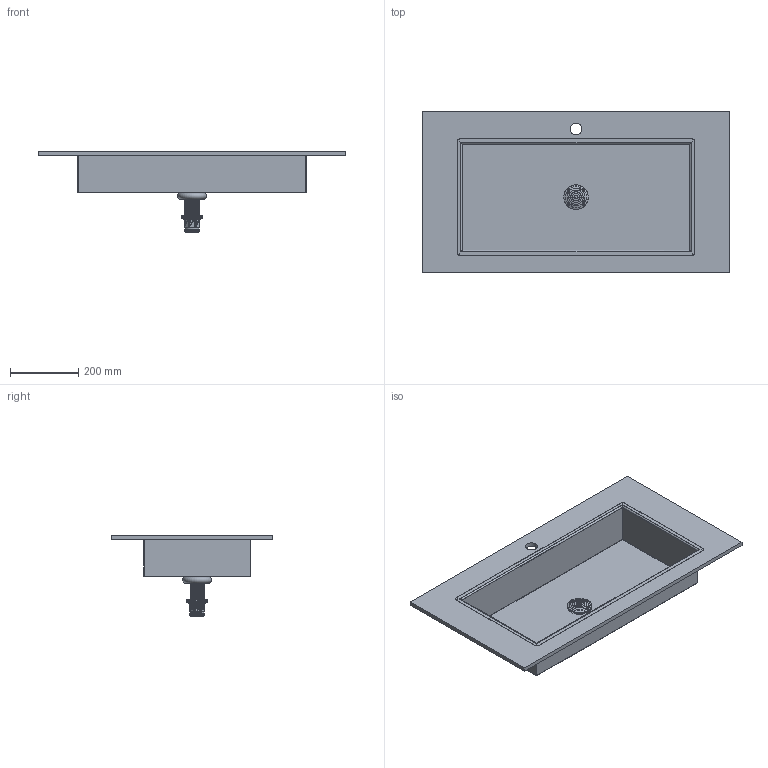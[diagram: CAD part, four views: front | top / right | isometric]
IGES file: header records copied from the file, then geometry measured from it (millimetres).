
Start section: Data from Parasolid IGES Translator 19.0.9, Copyright(c) 2006 Siemens PL M Software. All Rights Reserved.
Global section: file name: noorth-top-H 1,2 D 47,3 W 90_6556.igs; native system: By Siemens PLM Incorporated; preprocessor: XPlus GENERIC/IGES 19.0.9; author: Noname; organization: Noname; date: 20200603.104524; units: metre
Bounding box: 900 x 472 x 235.2 mm (x, y, z)
Volume: 2679707.1 mm3; surface area: 1437055.8 mm2
Topology: 2 solids, 2 shells, 11732 faces, 35116 edges, 35006 vertices
Faces by surface type: extrusion 11618, plane 60, cylinder 28, bspline 20, torus 4, cone 2
Full cylindrical faces by diameter (mm): 34.9 x1, 42 x1, 46 x1, 47.6 x1
